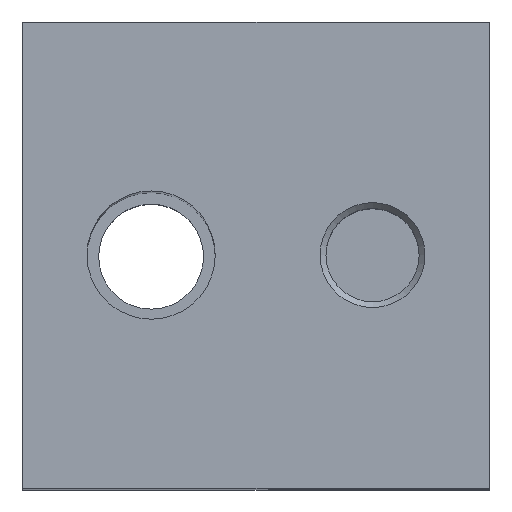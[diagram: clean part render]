
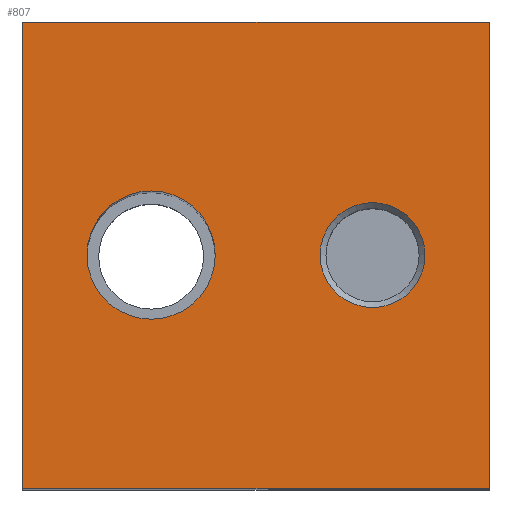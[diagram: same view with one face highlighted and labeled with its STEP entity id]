
A CAD part, top view. The second image highlights one B-rep face of the part: STEP entity #807.
In plain terms, the highlighted planar face has unit normal (0, 0, 1) as drawn and (0, 1, 0) by its records, which use the part's own axes.
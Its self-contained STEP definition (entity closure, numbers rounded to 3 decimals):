
#61=FACE_BOUND('',#166,.T.);
#62=FACE_BOUND('',#167,.T.);
#77=PLANE('',#953);
#114=FACE_OUTER_BOUND('',#165,.T.);
#165=EDGE_LOOP('',(#651,#652,#653,#654));
#166=EDGE_LOOP('',(#655,#656));
#167=EDGE_LOOP('',(#657));
#220=LINE('',#1372,#278);
#221=LINE('',#1374,#279);
#222=LINE('',#1376,#280);
#223=LINE('',#1377,#281);
#278=VECTOR('',#1130,10.);
#279=VECTOR('',#1131,10.);
#280=VECTOR('',#1132,10.);
#281=VECTOR('',#1133,10.);
#335=CIRCLE('',#944,5.5);
#336=CIRCLE('',#945,5.5);
#338=CIRCLE('',#948,4.5);
#392=VERTEX_POINT('',#1350);
#393=VERTEX_POINT('',#1351);
#395=VERTEX_POINT('',#1358);
#399=VERTEX_POINT('',#1370);
#400=VERTEX_POINT('',#1371);
#401=VERTEX_POINT('',#1373);
#402=VERTEX_POINT('',#1375);
#484=EDGE_CURVE('',#392,#393,#335,.T.);
#485=EDGE_CURVE('',#393,#392,#336,.T.);
#488=EDGE_CURVE('',#395,#395,#338,.T.);
#494=EDGE_CURVE('',#399,#400,#220,.T.);
#495=EDGE_CURVE('',#400,#401,#221,.T.);
#496=EDGE_CURVE('',#401,#402,#222,.T.);
#497=EDGE_CURVE('',#399,#402,#223,.T.);
#651=ORIENTED_EDGE('',*,*,#494,.T.);
#652=ORIENTED_EDGE('',*,*,#495,.T.);
#653=ORIENTED_EDGE('',*,*,#496,.T.);
#654=ORIENTED_EDGE('',*,*,#497,.F.);
#655=ORIENTED_EDGE('',*,*,#484,.T.);
#656=ORIENTED_EDGE('',*,*,#485,.T.);
#657=ORIENTED_EDGE('',*,*,#488,.F.);
#807=ADVANCED_FACE('',(#114,#61,#62),#77,.T.);
#944=AXIS2_PLACEMENT_3D('',#1352,#1107,#1108);
#945=AXIS2_PLACEMENT_3D('',#1353,#1109,#1110);
#948=AXIS2_PLACEMENT_3D('',#1359,#1116,#1117);
#953=AXIS2_PLACEMENT_3D('',#1369,#1128,#1129);
#1107=DIRECTION('center_axis',(0.,-1.,0.));
#1108=DIRECTION('ref_axis',(1.,0.,0.));
#1109=DIRECTION('center_axis',(0.,-1.,0.));
#1110=DIRECTION('ref_axis',(1.,0.,0.));
#1116=DIRECTION('center_axis',(0.,1.,0.));
#1117=DIRECTION('ref_axis',(-1.,0.,0.));
#1128=DIRECTION('center_axis',(0.,1.,0.));
#1129=DIRECTION('ref_axis',(0.,0.,1.));
#1130=DIRECTION('',(1.,0.,0.));
#1131=DIRECTION('',(0.,0.,-1.));
#1132=DIRECTION('',(-1.,0.,0.));
#1133=DIRECTION('',(0.,0.,-1.));
#1350=CARTESIAN_POINT('',(-4.5,80.,0.));
#1351=CARTESIAN_POINT('',(-15.5,80.,0.));
#1352=CARTESIAN_POINT('Origin',(-10.,80.,0.));
#1353=CARTESIAN_POINT('Origin',(-10.,80.,0.));
#1358=CARTESIAN_POINT('',(13.5,80.,0.));
#1359=CARTESIAN_POINT('Origin',(9.,80.,0.));
#1369=CARTESIAN_POINT('Origin',(-21.,80.,0.));
#1370=CARTESIAN_POINT('',(-21.,80.,20.));
#1371=CARTESIAN_POINT('',(19.,80.,20.));
#1372=CARTESIAN_POINT('',(-21.,80.,20.));
#1373=CARTESIAN_POINT('',(19.,80.,-20.));
#1374=CARTESIAN_POINT('',(19.,80.,0.));
#1375=CARTESIAN_POINT('',(-21.,80.,-20.));
#1376=CARTESIAN_POINT('',(-21.,80.,-20.));
#1377=CARTESIAN_POINT('',(-21.,80.,0.));
